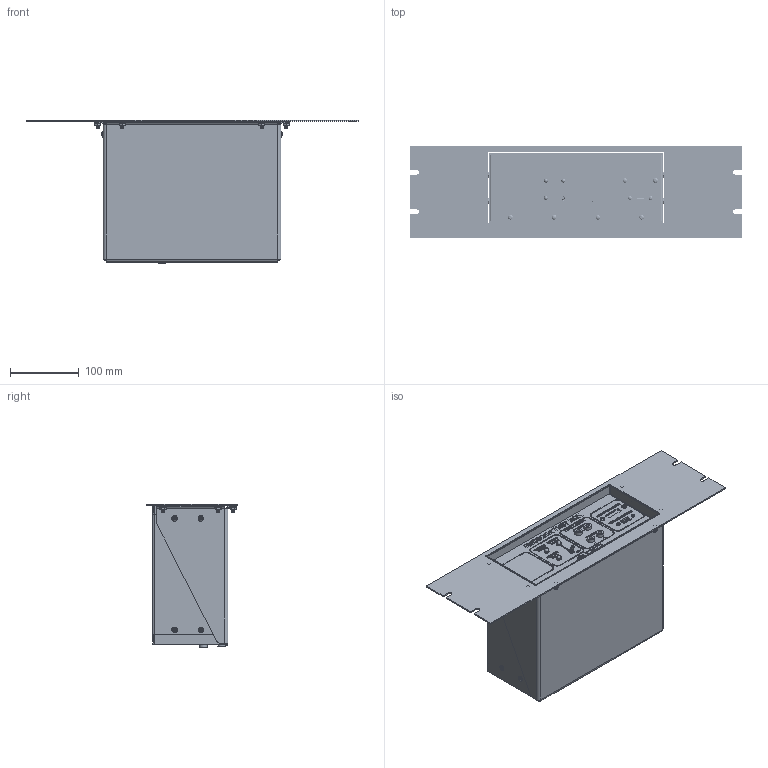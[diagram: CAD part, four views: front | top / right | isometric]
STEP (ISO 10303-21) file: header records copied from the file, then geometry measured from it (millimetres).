
FILE_DESCRIPTION (( 'STEP AP214' ), '1' );
FILE_NAME ('200-6684-101 Rack Mount Kit (with Test Box).STEP', '2020-01-14T14:59:26', ( '' ), ( '' ), 'SwSTEP 2.0', 'SolidWorks 2019', '' );
FILE_SCHEMA (( 'AUTOMOTIVE_DESIGN' ));
Length unit declared in the file: inch
Products named in the file (7): Support Bracket; 200-6684-101 Rack Mount Kit (with Test Box); #8 Lock Washer; 6-32 x .25 Truss Head Tapping Screw; 200-6643-XXX Encoder Test Box_Screws Out for Rack Mount; Front Panel; 8-32 Hex Nut
Assembly tree (19 placements, depth 2):
  200-6684-101 Rack Mount Kit (with Test Box)
    Front Panel
    Support Bracket
    #8 Lock Washer  x6
    8-32 Hex Nut  x6
    200-6643-XXX Encoder Test Box_Screws Out for Rack Mount
    6-32 x .25 Truss Head Tapping Screw  x4
Bounding box: 482.6 x 132.59 x 208.79 mm (x, y, z)
Volume: 4851773.5 mm3; surface area: 499272 mm2
Topology: 19 solids, 62 shells, 6248 faces, 16436 edges, 10901 vertices
Faces by surface type: plane 3671, bspline 1405, cylinder 907, cone 230, sphere 19, torus 16
Full cylindrical faces by diameter (mm): 0.6 x2, 0.889 x50, 1.143 x62, 1.219 x26, 1.587 x1, 2.083 x25, 2.261 x8, 2.5 x1, 2.594 x1, 2.845 x16, 3.175 x12, 3.25 x2, 3.302 x4, 3.4 x2, 3.454 x6, 3.5 x1, 3.505 x18, 3.81 x2, 4.009 x1, 4.166 x1, 4.178 x6, 4.191 x1, 4.305 x8, 4.496 x1, 4.915 x6, 5.08 x6, 5.156 x8, 5.562 x6, 5.69 x2, 6.096 x3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
Entity records: 322591 total; most frequent: CARTESIAN_POINT 120061, ORIENTED_EDGE 28848, DIRECTION 22807, EDGE_CURVE 14424, VERTEX_POINT 9735, LINE 9717, VECTOR 9717, EDGE_LOOP 6897
